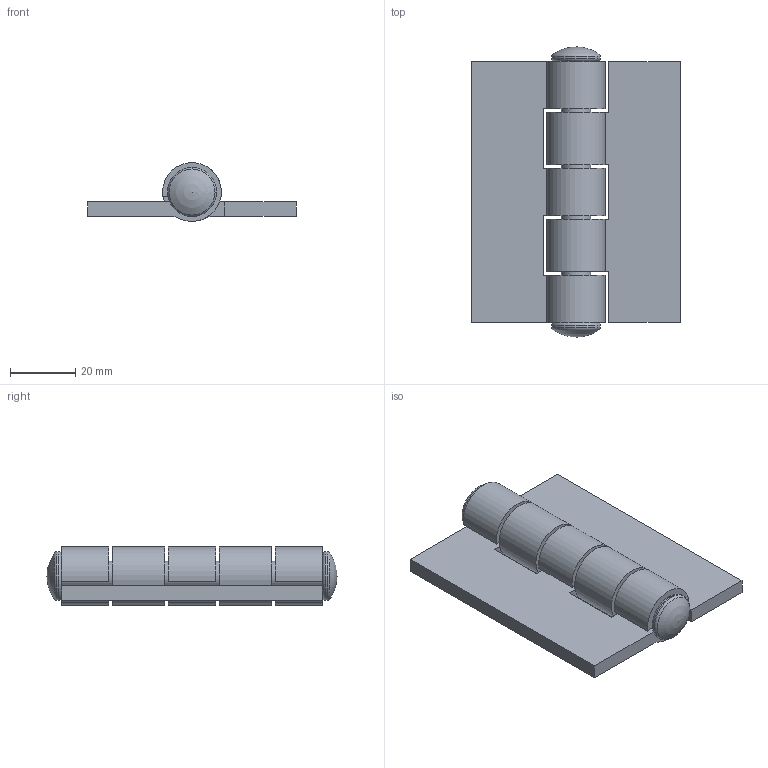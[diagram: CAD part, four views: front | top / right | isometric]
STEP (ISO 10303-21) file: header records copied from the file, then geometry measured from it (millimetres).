
FILE_DESCRIPTION(/* description */ (''),/* implementation_level */ '2;1');
FILE_NAME(/* name */ '\\NAS\db20\HTN8064-45\DR_HTN8064-45.stp',/* time_stamp */ '2017-08-23T09:01:54+09:00',/* author */ ('user'),/* organization */ (''),/* preprocessor_version */ 'ST-DEVELOPER v15.6',/* originating_system */ 'Autodesk Inventor 2015',/* authorisation */ '');
FILE_SCHEMA (('AUTOMOTIVE_DESIGN { 1 0 10303 214 3 1 1 }'));
Length unit declared in the file: millimetre
Products named in the file (3): DR_HTN8064-45-P1; DR_HTN8064-45-P2; DR_HTN8064-45
Bounding box: 64 x 89 x 17.99 mm (x, y, z)
Volume: 36783.6 mm3; surface area: 20375.4 mm2
Topology: 3 solids, 3 shells, 59 faces, 155 edges, 102 vertices
Faces by surface type: plane 30, cylinder 23, torus 4, sphere 2
Full cylindrical faces by diameter (mm): 9 x1, 15 x2
Entity records: 1817 total; most frequent: DIRECTION 320, CARTESIAN_POINT 304, ORIENTED_EDGE 284, EDGE_CURVE 142, AXIS2_PLACEMENT_3D 114, VERTEX_POINT 98, LINE 92, VECTOR 92
